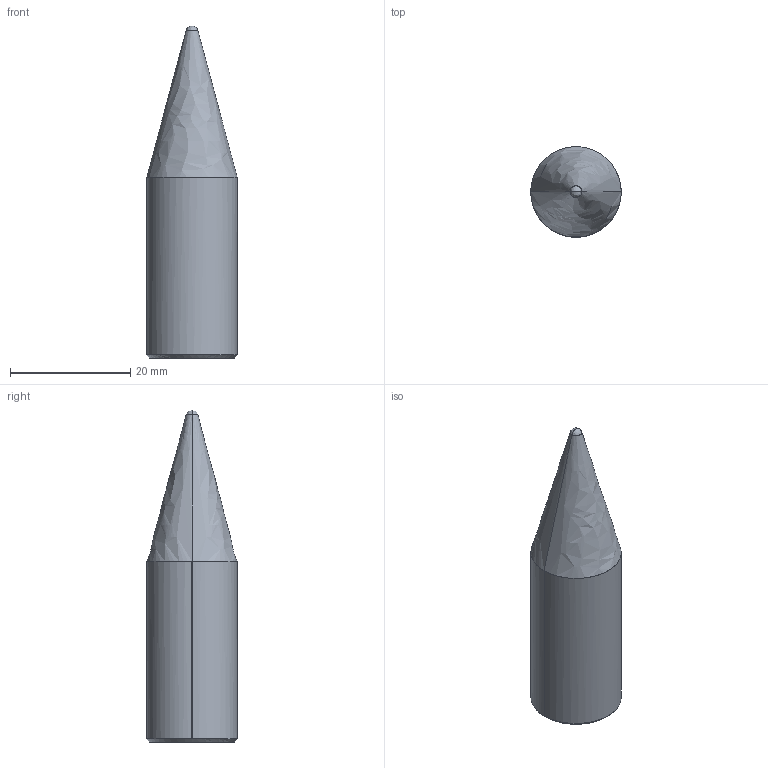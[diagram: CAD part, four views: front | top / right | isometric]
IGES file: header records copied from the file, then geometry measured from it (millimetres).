
Global section: file name: E:\UnigraphicsGraphicData\MISUMI_PRESS-PARTS\IGES\3d_snst15-b30_03112_r00.igs; native system: NX V5.0; preprocessor: UGS NX IGES V5.0; author: MISUMI; date: 20110105.162852; units: millimetre
Bounding box: 15 x 14.98 x 55.13 mm (x, y, z)
Surface area: 2479.1 mm2 (no closed solid volume)
Topology: 0 solids, 0 shells, 12 faces, 64 edges, 62 vertices
Faces by surface type: bspline 12
